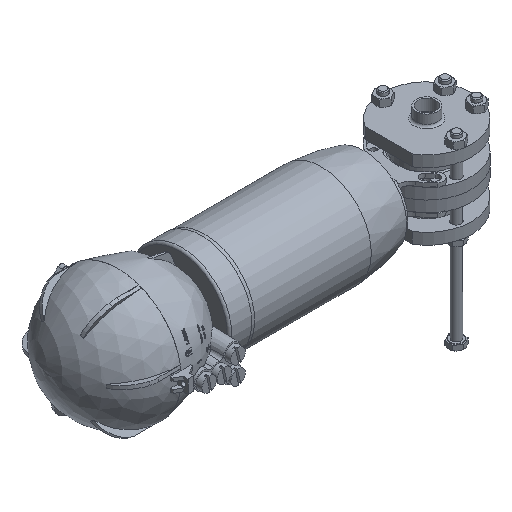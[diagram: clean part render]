
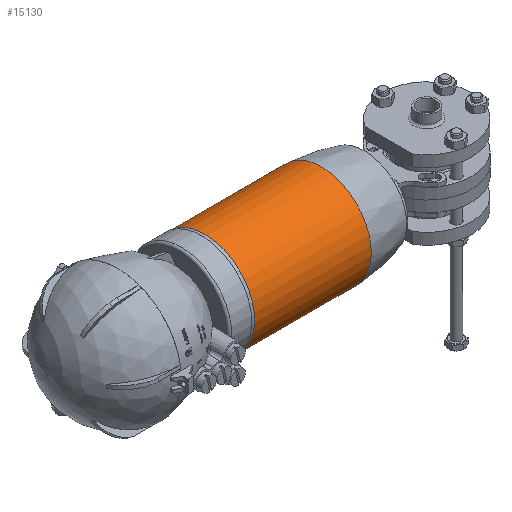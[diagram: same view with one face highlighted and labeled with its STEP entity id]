
A CAD part, isometric view. The second image highlights one B-rep face of the part: STEP entity #15130.
In plain terms, the highlighted cylindrical face has radius 44.5 mm (diameter 89 mm), a full revolution.
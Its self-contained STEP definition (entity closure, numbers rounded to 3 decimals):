
#2511=FACE_OUTER_BOUND('',#3368,.T.);
#3368=EDGE_LOOP('',(#10523,#10524,#10525,#10526,#10527));
#4298=LINE('',#23070,#5123);
#5123=VECTOR('',#18302,44.5);
#5951=CIRCLE('',#16234,44.5);
#5952=CIRCLE('',#16236,44.5);
#5953=CIRCLE('',#16237,44.5);
#6623=VERTEX_POINT('',#23063);
#6624=VERTEX_POINT('',#23067);
#6625=VERTEX_POINT('',#23068);
#8165=EDGE_CURVE('',#6623,#6623,#5951,.T.);
#8167=EDGE_CURVE('',#6624,#6625,#5952,.T.);
#8168=EDGE_CURVE('',#6624,#6623,#4298,.T.);
#8169=EDGE_CURVE('',#6625,#6624,#5953,.T.);
#10523=ORIENTED_EDGE('',*,*,#8167,.F.);
#10524=ORIENTED_EDGE('',*,*,#8168,.T.);
#10525=ORIENTED_EDGE('',*,*,#8165,.T.);
#10526=ORIENTED_EDGE('',*,*,#8168,.F.);
#10527=ORIENTED_EDGE('',*,*,#8169,.F.);
#15033=CYLINDRICAL_SURFACE('',#16235,44.5);
#15130=ADVANCED_FACE('',(#2511),#15033,.T.);
#16234=AXIS2_PLACEMENT_3D('',#23064,#18295,#18296);
#16235=AXIS2_PLACEMENT_3D('',#23066,#18298,#18299);
#16236=AXIS2_PLACEMENT_3D('',#23069,#18300,#18301);
#16237=AXIS2_PLACEMENT_3D('',#23071,#18303,#18304);
#18295=DIRECTION('center_axis',(0.,0.,-1.));
#18296=DIRECTION('ref_axis',(0.,1.,0.));
#18298=DIRECTION('center_axis',(0.,0.,-1.));
#18299=DIRECTION('ref_axis',(0.,1.,0.));
#18300=DIRECTION('center_axis',(0.,0.,-1.));
#18301=DIRECTION('ref_axis',(0.,1.,0.));
#18302=DIRECTION('',(0.,0.,1.));
#18303=DIRECTION('center_axis',(0.,0.,-1.));
#18304=DIRECTION('ref_axis',(0.,1.,0.));
#23063=CARTESIAN_POINT('',(0.,-44.5,142.5));
#23064=CARTESIAN_POINT('Origin',(0.,0.,142.5));
#23066=CARTESIAN_POINT('Origin',(0.,0.,54.568));
#23067=CARTESIAN_POINT('',(0.,-44.5,38.136));
#23068=CARTESIAN_POINT('',(44.5,0.,38.136));
#23069=CARTESIAN_POINT('Origin',(0.,0.,38.136));
#23070=CARTESIAN_POINT('',(0.,-44.5,54.568));
#23071=CARTESIAN_POINT('Origin',(0.,0.,38.136));
